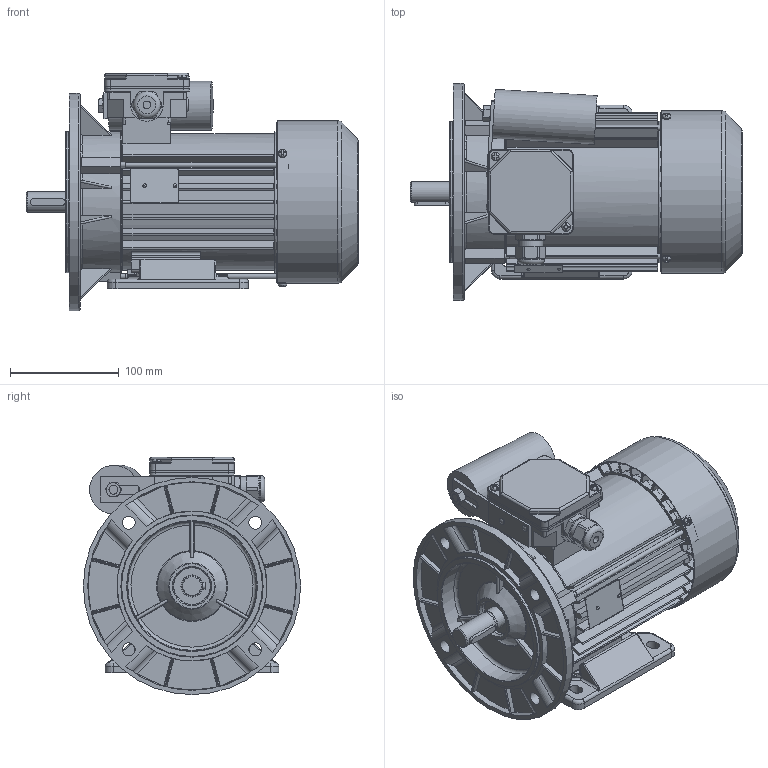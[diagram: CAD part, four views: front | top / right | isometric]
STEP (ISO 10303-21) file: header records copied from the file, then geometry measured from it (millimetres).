
FILE_DESCRIPTION(/* description */ ('Unknown'),/* implementation_level */ '2;1');
FILE_NAME(/* name */ '3SSIEL80-4B',/* time_stamp */ '2024-06-18T10:57:45+02:00',/* author */ ('Unknown'),/* organization */ ('Unknown'),/* preprocessor_version */ 'ST-DEVELOPER v16.7',/* originating_system */ 'Solid Edge',/* authorisation */ 'Unknown');
FILE_SCHEMA (('AUTOMOTIVE_DESIGN {1 0 10303 214 3 1 1}'));
Products named in the file (1): Czêœæ16
Bounding box: 305.79 x 200 x 218.5 mm (x, y, z)
Volume: 1354395.4 mm3; surface area: 633637.4 mm2
Topology: 4 solids, 4 shells, 2582 faces, 7279 edges, 4698 vertices
Faces by surface type: plane 1290, cylinder 892, bspline 144, torus 130, cone 106, sphere 20
Full cylindrical faces by diameter (mm): 2 x2, 2.4 x2, 3 x2, 3.7 x8, 4 x5, 4.3 x2, 4.5 x3, 4.6 x3, 4.8 x2, 5 x5, 5.5 x3, 6 x2, 6.5 x5, 7 x1, 8 x10, 12 x4, 18.598 x1, 18.998 x1, 19.298 x1, 19.498 x1, 19.898 x1, 19.948 x1, 19.998 x2, 20.4 x2, 22.3 x1, 25 x1, 25.497 x1, 25.647 x1, 25.997 x3, 26.047 x1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
Entity records: 102150 total; most frequent: CARTESIAN_POINT 20849, ORIENTED_EDGE 13730, DIRECTION 13067, EDGE_CURVE 6865, AXIS2_PLACEMENT_3D 4722, VERTEX_POINT 4562, LINE 3623, VECTOR 3623
